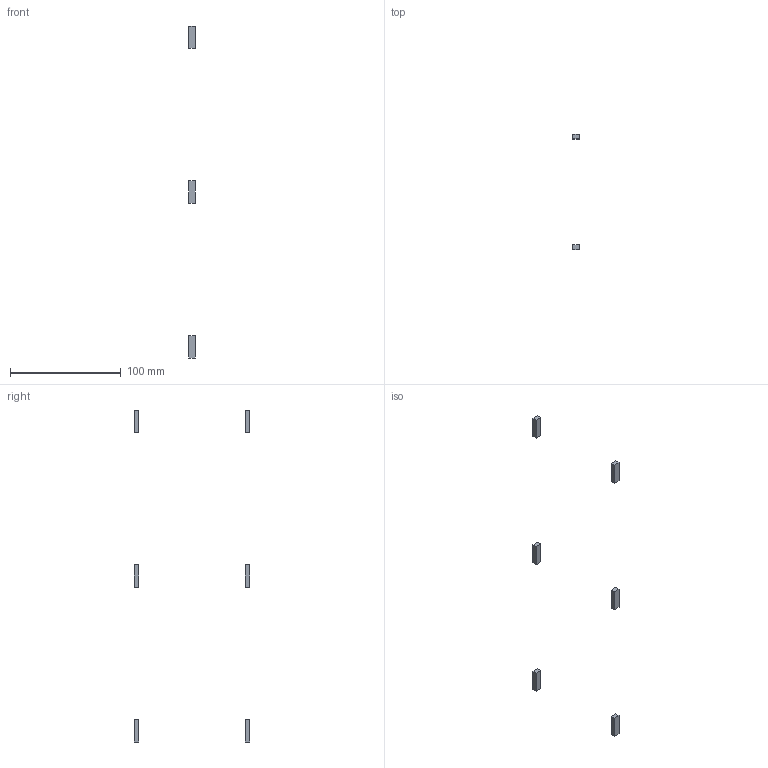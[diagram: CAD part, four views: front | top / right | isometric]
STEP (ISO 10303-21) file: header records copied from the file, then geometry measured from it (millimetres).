
FILE_DESCRIPTION(('Open CASCADE Model'),'2;1');
FILE_NAME('hinges','2026-08-12T02:42:46',('Author'),('Open CASCADE'), 'Open CASCADE STEP processor 7.9','build123d','Unknown');
FILE_SCHEMA(('AUTOMOTIVE_DESIGN { 1 0 10303 214 1 1 1 1 }'));
Length unit declared in the file: millimetre
Products named in the file (7): hinges; COMPOUND
Assembly tree (6 placements, depth 2):
  hinges
    COMPOUND
    COMPOUND
    COMPOUND
    COMPOUND
    COMPOUND
    COMPOUND
Bounding box: 6 x 104 x 300 mm (x, y, z)
Volume: 2880 mm3; surface area: 2688 mm2
Topology: 6 solids, 6 shells, 36 faces, 72 edges, 48 vertices
Faces by surface type: plane 36
Entity records: 1960 total; most frequent: CARTESIAN_POINT 307, DIRECTION 302, LINE 216, VECTOR 216, ORIENTED_EDGE 144, PCURVE 144, DEFINITIONAL_REPRESENTATION 144, EDGE_CURVE 72
